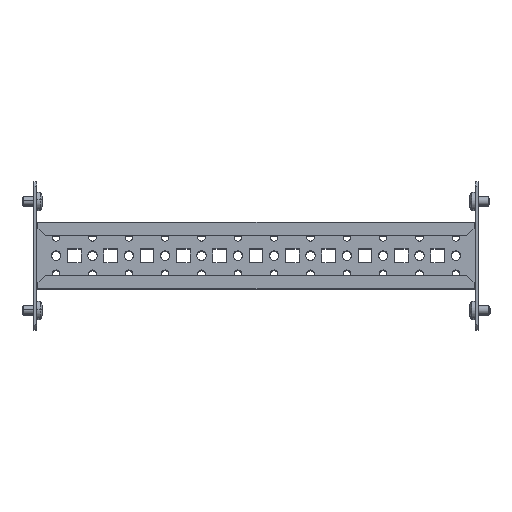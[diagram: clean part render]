
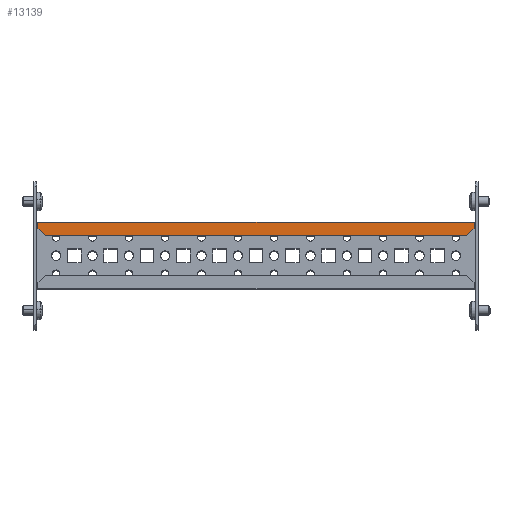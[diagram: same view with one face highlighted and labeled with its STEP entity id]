
A CAD part, top view. The second image highlights one B-rep face of the part: STEP entity #13139.
In plain terms, the highlighted planar face has unit normal (0, 0, 1) as drawn and (0, 1, 0) by its records, which use the part's own axes.
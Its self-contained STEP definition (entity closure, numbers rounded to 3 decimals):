
#34 = LINE ( 'NONE', #6442, #6486 ) ;
#69 = VECTOR ( 'NONE', #12387, 1000. ) ;
#167 = LINE ( 'NONE', #5482, #5524 ) ;
#598 = ORIENTED_EDGE ( 'NONE', *, *, #3627, .T. ) ;
#1232 = CARTESIAN_POINT ( 'NONE',  ( 0., 34., 0. ) ) ;
#1253 = DIRECTION ( 'NONE',  ( 0.707, 0., 0.707 ) ) ;
#1939 = CARTESIAN_POINT ( 'NONE',  ( 150., 34., -18.5 ) ) ;
#2110 = VECTOR ( 'NONE', #12786, 1000. ) ;
#2274 = CARTESIAN_POINT ( 'NONE',  ( -145., 34., -13.5 ) ) ;
#2928 = CARTESIAN_POINT ( 'NONE',  ( -150., 34., -20. ) ) ;
#3075 = CARTESIAN_POINT ( 'NONE',  ( 150., 34., -20. ) ) ;
#3242 = VERTEX_POINT ( 'NONE', #2274 ) ;
#3444 = ORIENTED_EDGE ( 'NONE', *, *, #4082, .T. ) ;
#3447 = CARTESIAN_POINT ( 'NONE',  ( 0., 34., -23. ) ) ;
#3572 = EDGE_CURVE ( 'NONE', #3242, #14137, #6648, .T. ) ;
#3627 = EDGE_CURVE ( 'NONE', #6670, #3242, #167, .T. ) ;
#3882 = AXIS2_PLACEMENT_3D ( 'NONE', #1232, #11216, #7913 ) ;
#3883 = EDGE_LOOP ( 'NONE', ( #8804, #3444, #4565, #13760, #13924, #8440, #12951, #598 ) ) ;
#4079 = CARTESIAN_POINT ( 'NONE',  ( 150., 34., -20. ) ) ;
#4082 = EDGE_CURVE ( 'NONE', #14137, #6448, #13493, .T. ) ;
#4282 = CARTESIAN_POINT ( 'NONE',  ( -150., 34., -18.5 ) ) ;
#4565 = ORIENTED_EDGE ( 'NONE', *, *, #12079, .T. ) ;
#4603 = PLANE ( 'NONE',  #3882 ) ;
#5276 = CARTESIAN_POINT ( 'NONE',  ( 150., 34., -23. ) ) ;
#5356 = DIRECTION ( 'NONE',  ( 0., 0., -1. ) ) ;
#5482 = CARTESIAN_POINT ( 'NONE',  ( -145., 34., -13.5 ) ) ;
#5524 = VECTOR ( 'NONE', #1253, 1000. ) ;
#6365 = CARTESIAN_POINT ( 'NONE',  ( 150., 34., -18.5 ) ) ;
#6442 = CARTESIAN_POINT ( 'NONE',  ( -150., 34., 0. ) ) ;
#6448 = VERTEX_POINT ( 'NONE', #6365 ) ;
#6477 = VECTOR ( 'NONE', #12842, 1000. ) ;
#6486 = VECTOR ( 'NONE', #5356, 1000. ) ;
#6648 = LINE ( 'NONE', #8932, #12636 ) ;
#6670 = VERTEX_POINT ( 'NONE', #4282 ) ;
#6772 = LINE ( 'NONE', #3447, #10320 ) ;
#6939 = CARTESIAN_POINT ( 'NONE',  ( 150., 34., 0. ) ) ;
#7404 = CARTESIAN_POINT ( 'NONE',  ( -150., 34., 0. ) ) ;
#7649 = DIRECTION ( 'NONE',  ( 1., 0., 0. ) ) ;
#7816 = VERTEX_POINT ( 'NONE', #3075 ) ;
#7913 = DIRECTION ( 'NONE',  ( -1., 0., 0. ) ) ;
#8024 = CARTESIAN_POINT ( 'NONE',  ( 145., 34., -13.5 ) ) ;
#8440 = ORIENTED_EDGE ( 'NONE', *, *, #11980, .F. ) ;
#8462 = LINE ( 'NONE', #4079, #6477 ) ;
#8804 = ORIENTED_EDGE ( 'NONE', *, *, #3572, .T. ) ;
#8906 = FACE_OUTER_BOUND ( 'NONE', #3883, .T. ) ;
#8932 = CARTESIAN_POINT ( 'NONE',  ( 0., 34., -13.5 ) ) ;
#9083 = LINE ( 'NONE', #6939, #69 ) ;
#9672 = VERTEX_POINT ( 'NONE', #2928 ) ;
#9884 = EDGE_CURVE ( 'NONE', #7816, #11862, #8462, .T. ) ;
#10066 = DIRECTION ( 'NONE',  ( -1., 0., 0. ) ) ;
#10320 = VECTOR ( 'NONE', #10066, 1000. ) ;
#10632 = VECTOR ( 'NONE', #10710, 1000. ) ;
#10710 = DIRECTION ( 'NONE',  ( 0., 0., 1. ) ) ;
#10857 = EDGE_CURVE ( 'NONE', #9672, #6670, #13787, .T. ) ;
#11216 = DIRECTION ( 'NONE',  ( 0., -1., 0. ) ) ;
#11862 = VERTEX_POINT ( 'NONE', #5276 ) ;
#11980 = EDGE_CURVE ( 'NONE', #9672, #12522, #34, .T. ) ;
#12079 = EDGE_CURVE ( 'NONE', #6448, #7816, #9083, .T. ) ;
#12387 = DIRECTION ( 'NONE',  ( 0., 0., -1. ) ) ;
#12522 = VERTEX_POINT ( 'NONE', #13508 ) ;
#12636 = VECTOR ( 'NONE', #7649, 1000. ) ;
#12786 = DIRECTION ( 'NONE',  ( 0.707, 0., -0.707 ) ) ;
#12842 = DIRECTION ( 'NONE',  ( 0., 0., -1. ) ) ;
#12951 = ORIENTED_EDGE ( 'NONE', *, *, #10857, .T. ) ;
#13139 = ADVANCED_FACE ( 'NONE', ( #8906 ), #4603, .F. ) ;
#13493 = LINE ( 'NONE', #1939, #2110 ) ;
#13508 = CARTESIAN_POINT ( 'NONE',  ( -150., 34., -23. ) ) ;
#13509 = EDGE_CURVE ( 'NONE', #11862, #12522, #6772, .T. ) ;
#13760 = ORIENTED_EDGE ( 'NONE', *, *, #9884, .T. ) ;
#13787 = LINE ( 'NONE', #7404, #10632 ) ;
#13924 = ORIENTED_EDGE ( 'NONE', *, *, #13509, .T. ) ;
#14137 = VERTEX_POINT ( 'NONE', #8024 ) ;
